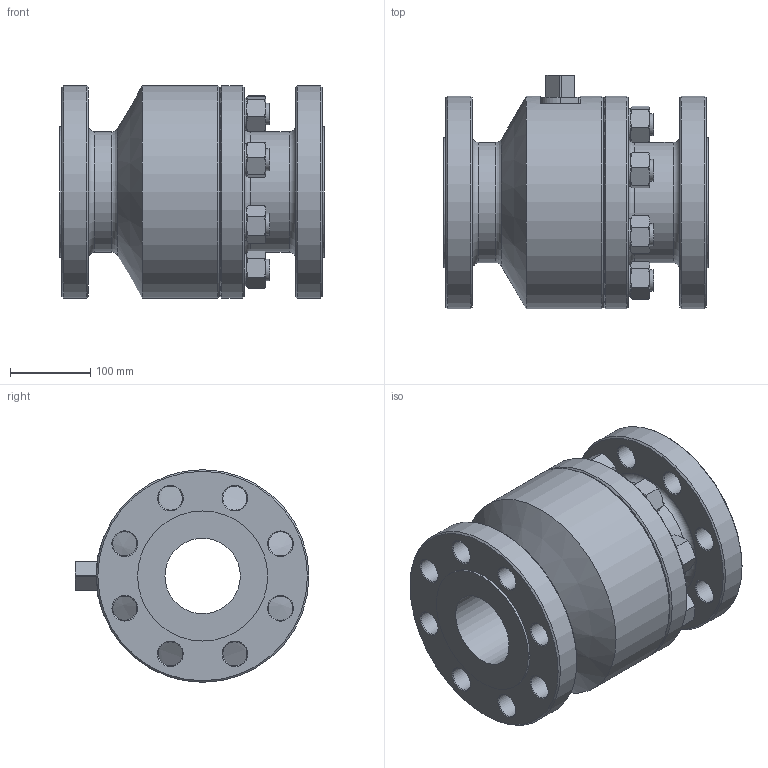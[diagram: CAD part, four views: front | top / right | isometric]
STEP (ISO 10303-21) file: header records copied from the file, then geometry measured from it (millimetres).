
FILE_DESCRIPTION((''),'2;1');
FILE_NAME('C:\Users\Bartek\Desktop\Nowy folder (2)\Nowy folder (22)\WK5b\WK5b DN100 PN100_Substitute_1.stp','2024-09-17T10:28:48',('Bartek'),(''),'Autodesk Inventor 2012','Autodesk Inventor 2012','');
FILE_SCHEMA(('AUTOMOTIVE_DESIGN { 1 0 10303 214 1 1 1 1 }'));
Length unit declared in the file: millimetre
Products named in the file (1): WK5b DN100 PN100_Substitute_1
Bounding box: 330 x 291.5 x 265 mm (x, y, z)
Volume: 11301208.9 mm3; surface area: 672101 mm2
Topology: 1 solids, 1 shells, 295 faces, 651 edges, 391 vertices
Faces by surface type: cone 144, plane 97, cylinder 50, torus 4
Full cylindrical faces by diameter (mm): 27 x8, 30 x16, 40 x8, 94 x1, 150 x2, 162 x2, 180 x1, 265 x4
Entity records: 7551 total; most frequent: CARTESIAN_POINT 1580, DIRECTION 1186, ORIENTED_EDGE 1066, AXIS2_PLACEMENT_3D 549, EDGE_CURVE 533, EDGE_LOOP 456, VERTEX_POINT 367, STYLED_ITEM 296
